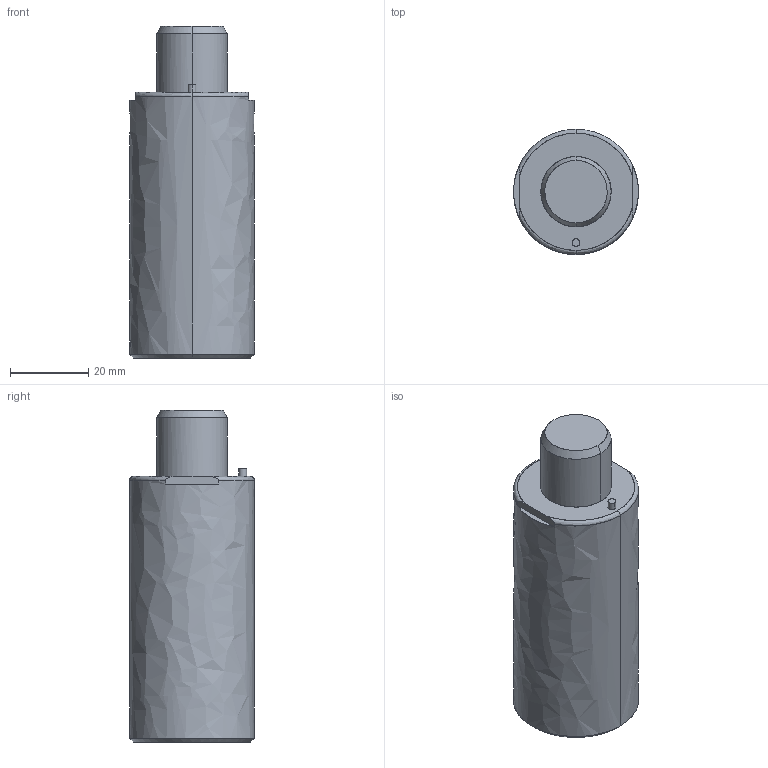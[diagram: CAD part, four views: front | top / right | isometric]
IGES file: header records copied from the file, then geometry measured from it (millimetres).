
Global section: file name: E:\UnigraphicsGraphicData\MISUMI_PRESS-PARTS\IGES\3d_gsx32-15_03996_r00.igs; native system: NX V5.0; preprocessor: UGS NX IGES V5.0; author: MISUMI; date: 20110105.160821; units: millimetre
Bounding box: 32 x 32 x 85 mm (x, y, z)
Surface area: 10161 mm2 (no closed solid volume)
Topology: 0 solids, 0 shells, 45 faces, 308 edges, 304 vertices
Faces by surface type: bspline 45
